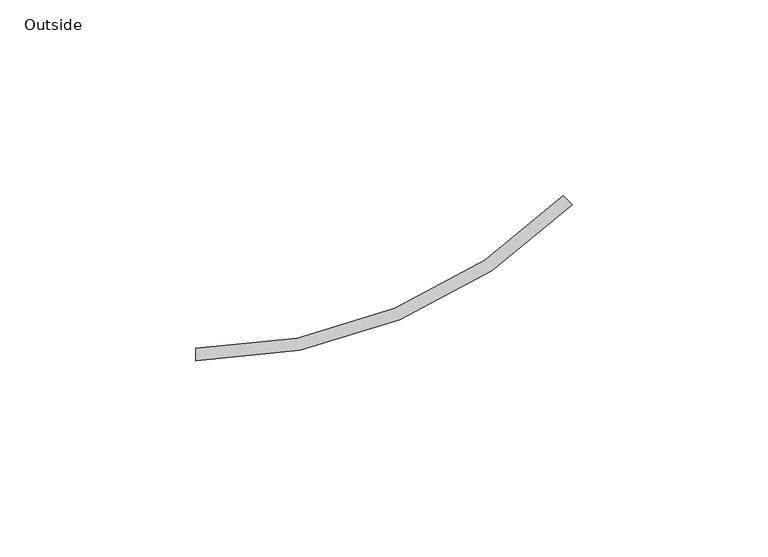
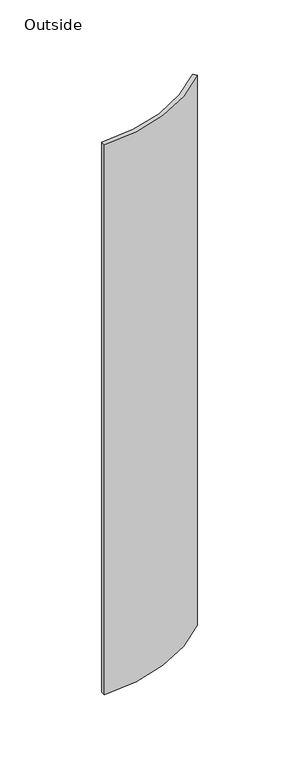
"""IFC4 building model written with IfcOpenShell, lengths in millimetres: cable carrier fitting geometry, Bend-Vertical-Cablofil-Wire_Mesh_Cable_Tray : Outside."""

from ifc_helpers import new_model, si_unit, point, frame, frame_2d, origin, place, context, project, spatial, polyline, circle_curve, trimmed, segment, composite_curve, outline, extrude, source, transform, mapped, element, save


def outside_1cee0266(model_context):
    return source(origin(), model_context, "Body", "SweptSolid", [
        extrude(outline(composite_curve([segment(polyline([(28.3596122, 64.2806367), (30.6046763, 62.0355727)]), True, "CONTINUOUS"), segment(trimmed(circle_curve(frame_2d((-65.5065483, 158.1467972)), 135.9217972), [point((30.6046763, 62.0355727))], [point((-65.5065483, 22.225))], False, "CARTESIAN"), True, "CONTINUOUS"), segment(polyline([(-65.5065483, 22.225), (-65.5065483, 25.4)]), True, "CONTINUOUS"), segment(trimmed(circle_curve(frame_2d((-65.5065483, 158.1467972)), 132.7467972), [point((-65.5065483, 25.4))], [point((28.3596122, 64.2806367))], True, "CARTESIAN"), True, "CONTINUOUS")], self_intersect=False)), frame((0.0, 0.0, -228.6), z_axis=(0.0, 0.0, 1.0), x_axis=(1.0, 0.0, 0.0)), (0.0, 0.0, 1.0), 457.2),
    ])


if __name__ == "__main__":
    model = new_model("IFC4")
    model_context = context("Model", 3, world=origin())
    ifc_project = project(units=[si_unit("LENGTHUNIT", "METRE", prefix="MILLI")], contexts=[model_context])
    site = spatial("IfcSite", under=ifc_project)
    building = spatial("IfcBuilding", under=site)
    placement = place(None, origin())
    outside_shape = outside_1cee0266(model_context)
    element("IfcCableCarrierFitting", 1, ObjectType="Bend-Vertical-Cablofil-Wire_Mesh_Cable_Tray : Outside", at=placement, inside=building, context=model_context, shape_type="MappedRepresentation", body=[
        mapped(outside_shape, transform((0.0, 0.0, 0.0), x_axis=(1.0, 0.0, 0.0), y_axis=(0.0, 1.0, 0.0), z_axis=(0.0, 0.0, 1.0))),
    ])
    save(model, "model.ifc")
